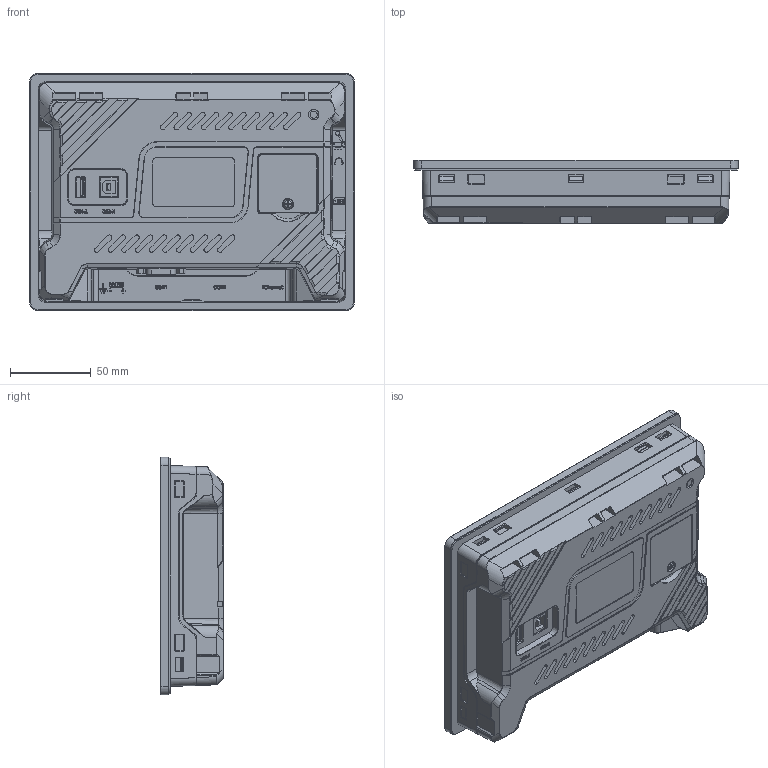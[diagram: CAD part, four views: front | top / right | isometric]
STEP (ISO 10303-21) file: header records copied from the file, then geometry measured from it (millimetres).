
FILE_DESCRIPTION((''),'2;1');
FILE_NAME('PI8070IG-IND_N__ASM','2024-04-07T15:47:57',('admin'),(''),'CREO PARAMETRIC BY PTC INC, 2018050','CREO PARAMETRIC BY PTC INC, 2018050','');
FILE_SCHEMA(('CONFIG_CONTROL_DESIGN'));
Products named in the file (4): PRT0001_1; M3-10-PM_6_1; PI8070IG-IND-N_ASM-240318_ASM_1_ASM; PI8070IG-IND_N__ASM
Assembly tree (3 placements, depth 3):
  PI8070IG-IND_N__ASM
    PI8070IG-IND-N_ASM-240318_ASM_1_ASM
      PRT0001_1
      M3-10-PM_6_1
Bounding box: 201.2 x 39 x 147.2 mm (x, y, z)
Volume: 888903.7 mm3; surface area: 99930.2 mm2
Topology: 2 solids, 4 shells, 2580 faces, 6975 edges, 4553 vertices
Faces by surface type: plane 1370, cylinder 590, extrusion 343, bspline 140, cone 68, torus 61, sphere 8
Entity records: 94191 total; most frequent: CARTESIAN_POINT 31809, ORIENTED_EDGE 13934, DIRECTION 11025, EDGE_CURVE 6967, VECTOR 4755, VERTEX_POINT 4553, LINE 4412, AXIS2_PLACEMENT_3D 3135
